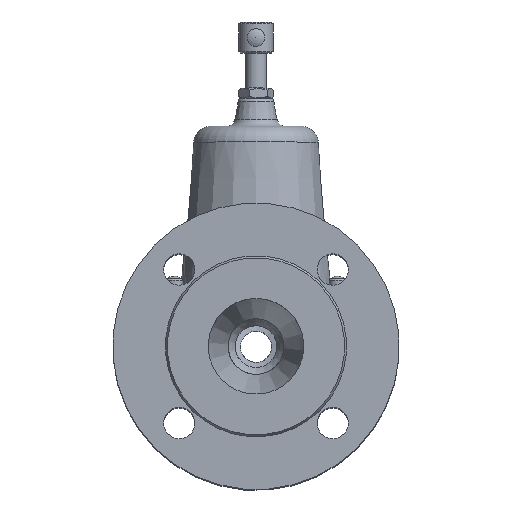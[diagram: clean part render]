
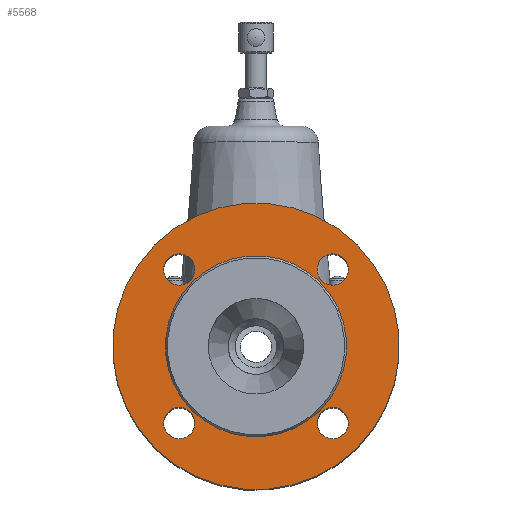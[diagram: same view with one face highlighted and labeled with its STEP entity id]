
A CAD part, top view. The second image highlights one B-rep face of the part: STEP entity #5568.
In plain terms, the highlighted planar face has unit normal (0, 0, 1) as drawn and (-1, 0, 0) by its records, which use the part's own axes.
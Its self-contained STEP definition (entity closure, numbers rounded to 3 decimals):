
#228=FACE_BOUND('',#1388,.T.);
#229=FACE_BOUND('',#1389,.T.);
#230=FACE_BOUND('',#1390,.T.);
#231=FACE_BOUND('',#1391,.T.);
#232=FACE_BOUND('',#1392,.T.);
#357=PLANE('',#6168);
#1014=FACE_OUTER_BOUND('',#1387,.T.);
#1387=EDGE_LOOP('',(#4746));
#1388=EDGE_LOOP('',(#4747));
#1389=EDGE_LOOP('',(#4748));
#1390=EDGE_LOOP('',(#4749));
#1391=EDGE_LOOP('',(#4750));
#1392=EDGE_LOOP('',(#4751));
#2243=CIRCLE('',#6156,9.);
#2244=CIRCLE('',#6158,9.);
#2245=CIRCLE('',#6160,9.);
#2246=CIRCLE('',#6162,9.);
#2249=CIRCLE('',#6167,52.155);
#2250=CIRCLE('',#6169,82.5);
#2714=VERTEX_POINT('',#14709);
#2715=VERTEX_POINT('',#14713);
#2716=VERTEX_POINT('',#14717);
#2717=VERTEX_POINT('',#14721);
#2720=VERTEX_POINT('',#14730);
#2721=VERTEX_POINT('',#14734);
#3420=EDGE_CURVE('',#2714,#2714,#2243,.T.);
#3422=EDGE_CURVE('',#2715,#2715,#2244,.T.);
#3424=EDGE_CURVE('',#2716,#2716,#2245,.T.);
#3426=EDGE_CURVE('',#2717,#2717,#2246,.T.);
#3429=EDGE_CURVE('',#2720,#2720,#2249,.T.);
#3431=EDGE_CURVE('',#2721,#2721,#2250,.T.);
#4746=ORIENTED_EDGE('',*,*,#3431,.F.);
#4747=ORIENTED_EDGE('',*,*,#3420,.T.);
#4748=ORIENTED_EDGE('',*,*,#3422,.T.);
#4749=ORIENTED_EDGE('',*,*,#3424,.T.);
#4750=ORIENTED_EDGE('',*,*,#3426,.T.);
#4751=ORIENTED_EDGE('',*,*,#3429,.T.);
#5568=ADVANCED_FACE('',(#1014,#228,#229,#230,#231,#232),#357,.T.);
#6156=AXIS2_PLACEMENT_3D('',#14711,#7296,#7297);
#6158=AXIS2_PLACEMENT_3D('',#14715,#7301,#7302);
#6160=AXIS2_PLACEMENT_3D('',#14719,#7306,#7307);
#6162=AXIS2_PLACEMENT_3D('',#14723,#7311,#7312);
#6167=AXIS2_PLACEMENT_3D('',#14731,#7321,#7322);
#6168=AXIS2_PLACEMENT_3D('',#14733,#7324,#7325);
#6169=AXIS2_PLACEMENT_3D('',#14735,#7326,#7327);
#7296=DIRECTION('center_axis',(1.,0.,0.));
#7297=DIRECTION('ref_axis',(0.,0.,-1.));
#7301=DIRECTION('center_axis',(1.,0.,0.));
#7302=DIRECTION('ref_axis',(0.,-1.,0.));
#7306=DIRECTION('center_axis',(1.,0.,0.));
#7307=DIRECTION('ref_axis',(0.,1.,0.));
#7311=DIRECTION('center_axis',(1.,0.,0.));
#7312=DIRECTION('ref_axis',(0.,0.,1.));
#7321=DIRECTION('center_axis',(1.,0.,0.));
#7322=DIRECTION('ref_axis',(0.,1.,0.));
#7324=DIRECTION('center_axis',(-1.,0.,0.));
#7325=DIRECTION('ref_axis',(0.,0.,1.));
#7326=DIRECTION('center_axis',(1.,0.,0.));
#7327=DIRECTION('ref_axis',(0.,1.,0.));
#14709=CARTESIAN_POINT('',(31.354,-62.5,9.));
#14711=CARTESIAN_POINT('Origin',(31.354,-62.5,0.));
#14713=CARTESIAN_POINT('',(31.354,9.,62.5));
#14715=CARTESIAN_POINT('Origin',(31.354,0.,
62.5));
#14717=CARTESIAN_POINT('',(31.354,-9.,-62.5));
#14719=CARTESIAN_POINT('Origin',(31.354,0.,
-62.5));
#14721=CARTESIAN_POINT('',(31.354,62.5,-9.));
#14723=CARTESIAN_POINT('Origin',(31.354,62.5,0.));
#14730=CARTESIAN_POINT('',(31.354,-52.155,0.));
#14731=CARTESIAN_POINT('Origin',(31.354,0.,0.));
#14733=CARTESIAN_POINT('Origin',(31.354,67.327,0.));
#14734=CARTESIAN_POINT('',(31.354,-82.5,0.));
#14735=CARTESIAN_POINT('Origin',(31.354,0.,0.));
